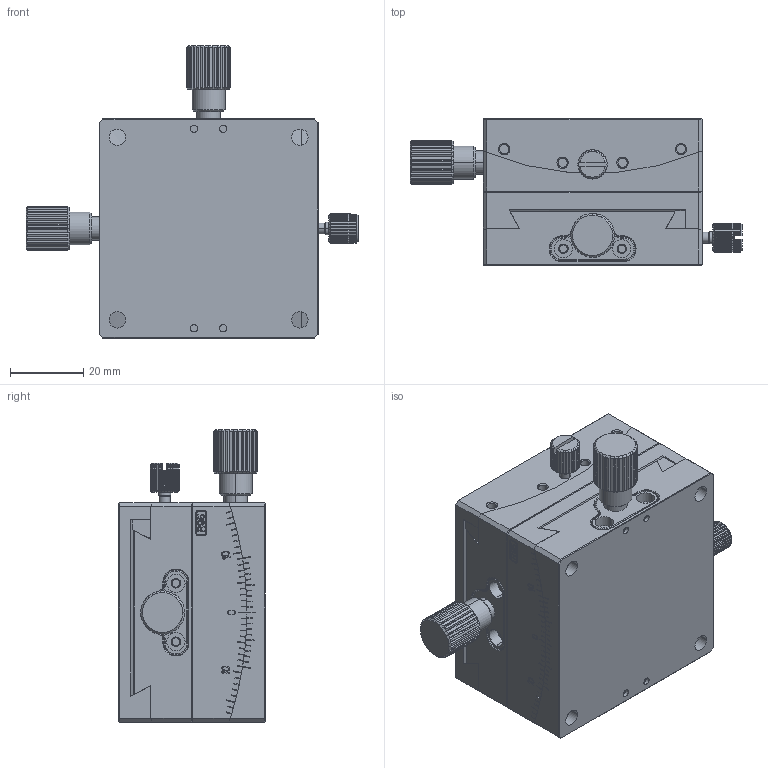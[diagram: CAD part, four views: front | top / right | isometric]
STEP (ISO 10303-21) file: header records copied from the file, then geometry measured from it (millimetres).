
FILE_DESCRIPTION((''),'2;1');
FILE_NAME('ASSY-60-XY-R95R75-R_ASM','2021-07-20T18:46:03',('windows10'),(''),'CREO PARAMETRIC BY PTC INC, 2018260','CREO PARAMETRIC BY PTC INC, 2018260','');
FILE_SCHEMA(('CONFIG_CONTROL_DESIGN'));
Products named in the file (15): BOTTOM-60-R95; TOP-60-R95; PUSH-BLOCK-60-R95; HOLDER-HANDLE; HANDLE-12-78; E-RING-4-9; ASSY-HANDLE-60_ASM; STOPPER-8-M3-16; HOLDER-HANDLE-COVER; ASSY-60-R95-R_ASM; BOTTOM-60-R75; TOP-60-R75; PUSH-BLOCK-60-R75; ASSY-60-R75-R_ASM; ASSY-60-XY-R95R75-R_ASM
Assembly tree (17 placements, depth 4):
  ASSY-60-XY-R95R75-R_ASM
    ASSY-60-R95-R_ASM
      BOTTOM-60-R95
      TOP-60-R95
      PUSH-BLOCK-60-R95
      ASSY-HANDLE-60_ASM
        HOLDER-HANDLE
        HANDLE-12-78
        E-RING-4-9
      STOPPER-8-M3-16
      HOLDER-HANDLE-COVER
    ASSY-60-R75-R_ASM
      BOTTOM-60-R75
      TOP-60-R75
      PUSH-BLOCK-60-R75
      ASSY-HANDLE-60_ASM
        HOLDER-HANDLE
        HANDLE-12-78
        E-RING-4-9
      STOPPER-8-M3-16
      HOLDER-HANDLE-COVER
Bounding box: 90.92 x 40 x 80 mm (x, y, z)
Volume: 139701.9 mm3; surface area: 58119.6 mm2
Topology: 16 solids, 16 shells, 2600 faces, 7025 edges, 4566 vertices
Faces by surface type: plane 1750, cylinder 556, cone 264, bspline 30
Entity records: 73118 total; most frequent: CARTESIAN_POINT 17290, ORIENTED_EDGE 11850, DIRECTION 11147, EDGE_CURVE 5925, VECTOR 4315, LINE 4315, VERTEX_POINT 3860, AXIS2_PLACEMENT_3D 3416
